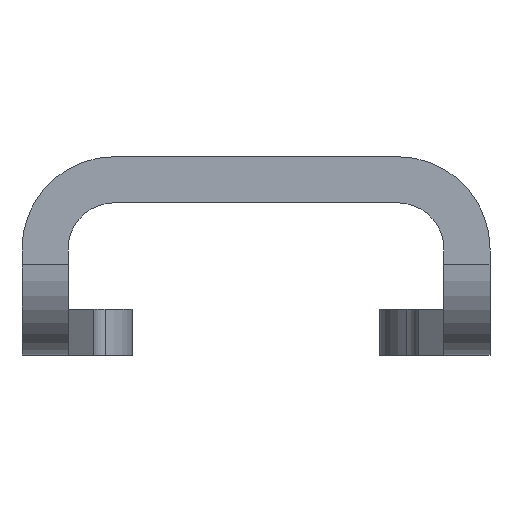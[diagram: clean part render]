
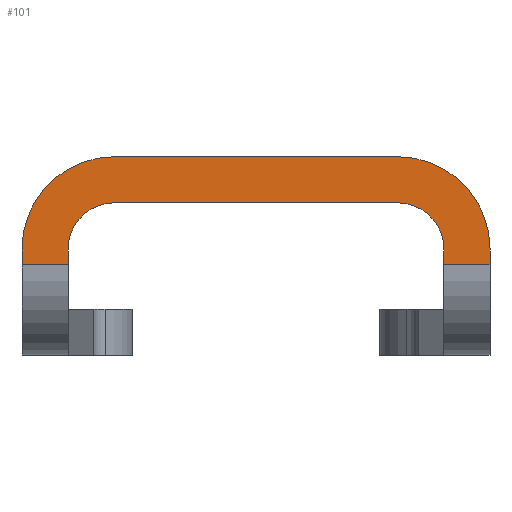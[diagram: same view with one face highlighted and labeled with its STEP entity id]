
A CAD part, left-side view. The second image highlights one B-rep face of the part: STEP entity #101.
In plain terms, the highlighted planar face has unit normal (-1, 0, 0).
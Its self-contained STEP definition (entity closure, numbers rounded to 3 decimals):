
#63=CIRCLE('',#749,2.6);
#64=CIRCLE('',#751,1.3);
#66=CIRCLE('',#754,2.6);
#67=CIRCLE('',#755,1.3);
#101=ADVANCED_FACE('',(#161),#131,.F.);
#131=PLANE('',#756);
#161=FACE_OUTER_BOUND('',#199,.T.);
#199=EDGE_LOOP('',(#310,#311,#312,#313,#314,#315,#316,#317,#318,#319,#320,
#321));
#310=ORIENTED_EDGE('',*,*,#520,.T.);
#311=ORIENTED_EDGE('',*,*,#523,.F.);
#312=ORIENTED_EDGE('',*,*,#533,.T.);
#313=ORIENTED_EDGE('',*,*,#527,.F.);
#314=ORIENTED_EDGE('',*,*,#536,.F.);
#315=ORIENTED_EDGE('',*,*,#537,.T.);
#316=ORIENTED_EDGE('',*,*,#538,.F.);
#317=ORIENTED_EDGE('',*,*,#539,.F.);
#318=ORIENTED_EDGE('',*,*,#540,.T.);
#319=ORIENTED_EDGE('',*,*,#529,.T.);
#320=ORIENTED_EDGE('',*,*,#534,.F.);
#321=ORIENTED_EDGE('',*,*,#516,.T.);
#440=VERTEX_POINT('',#1068);
#441=VERTEX_POINT('',#1070);
#443=VERTEX_POINT('',#1076);
#445=VERTEX_POINT('',#1082);
#446=VERTEX_POINT('',#1086);
#449=VERTEX_POINT('',#1091);
#451=VERTEX_POINT('',#1096);
#452=VERTEX_POINT('',#1098);
#454=VERTEX_POINT('',#1110);
#455=VERTEX_POINT('',#1112);
#456=VERTEX_POINT('',#1114);
#457=VERTEX_POINT('',#1116);
#516=EDGE_CURVE('',#441,#440,#605,.T.);
#520=EDGE_CURVE('',#440,#443,#608,.T.);
#523=EDGE_CURVE('',#445,#443,#611,.T.);
#527=EDGE_CURVE('',#449,#446,#615,.T.);
#529=EDGE_CURVE('',#452,#451,#617,.T.);
#533=EDGE_CURVE('',#445,#446,#63,.T.);
#534=EDGE_CURVE('',#441,#451,#64,.T.);
#536=EDGE_CURVE('',#454,#449,#66,.T.);
#537=EDGE_CURVE('',#454,#455,#620,.T.);
#538=EDGE_CURVE('',#456,#455,#621,.T.);
#539=EDGE_CURVE('',#457,#456,#622,.T.);
#540=EDGE_CURVE('',#457,#452,#67,.T.);
#605=LINE('',#1069,#673);
#608=LINE('',#1077,#676);
#611=LINE('',#1083,#679);
#615=LINE('',#1092,#683);
#617=LINE('',#1097,#685);
#620=LINE('',#1111,#688);
#621=LINE('',#1113,#689);
#622=LINE('',#1115,#690);
#673=VECTOR('',#860,1.);
#676=VECTOR('',#867,1.);
#679=VECTOR('',#872,1.);
#683=VECTOR('',#878,1.);
#685=VECTOR('',#882,1.);
#688=VECTOR('',#901,1.);
#689=VECTOR('',#902,1.);
#690=VECTOR('',#903,1.);
#749=AXIS2_PLACEMENT_3D('',#1104,#889,#890);
#751=AXIS2_PLACEMENT_3D('',#1106,#893,#894);
#754=AXIS2_PLACEMENT_3D('',#1109,#899,#900);
#755=AXIS2_PLACEMENT_3D('',#1117,#904,#905);
#756=AXIS2_PLACEMENT_3D('',#1118,#906,#907);
#860=DIRECTION('',(0.,0.,-1.));
#867=DIRECTION('',(0.,-1.,0.));
#872=DIRECTION('',(0.,0.,-1.));
#878=DIRECTION('',(0.,-1.,0.));
#882=DIRECTION('',(0.,-1.,0.));
#889=DIRECTION('',(-1.,0.,0.));
#890=DIRECTION('',(0.,0.,1.));
#893=DIRECTION('',(-1.,0.,0.));
#894=DIRECTION('',(0.,0.,1.));
#899=DIRECTION('',(1.,0.,0.));
#900=DIRECTION('',(0.,0.,-1.));
#901=DIRECTION('',(0.,0.,-1.));
#902=DIRECTION('',(0.,1.,0.));
#903=DIRECTION('',(0.,0.,-1.));
#904=DIRECTION('',(1.,0.,0.));
#905=DIRECTION('',(0.,0.,-1.));
#906=DIRECTION('',(1.,0.,0.));
#907=DIRECTION('',(0.,0.,-1.));
#1068=CARTESIAN_POINT('',(-2.55,-5.3,1.9));
#1069=CARTESIAN_POINT('',(-2.55,-5.3,2.35));
#1070=CARTESIAN_POINT('',(-2.55,-5.3,2.35));
#1076=CARTESIAN_POINT('',(-2.55,-6.6,1.9));
#1077=CARTESIAN_POINT('',(-2.55,-5.3,1.9));
#1082=CARTESIAN_POINT('',(-2.55,-6.6,2.35));
#1083=CARTESIAN_POINT('',(-2.55,-6.6,2.35));
#1086=CARTESIAN_POINT('',(-2.55,-4.,4.95));
#1091=CARTESIAN_POINT('',(-2.55,4.,4.95));
#1092=CARTESIAN_POINT('',(-2.55,-4.,4.95));
#1096=CARTESIAN_POINT('',(-2.55,-4.,3.65));
#1097=CARTESIAN_POINT('',(-2.55,-4.,3.65));
#1098=CARTESIAN_POINT('',(-2.55,4.,3.65));
#1104=CARTESIAN_POINT('',(-2.55,-4.,2.35));
#1106=CARTESIAN_POINT('',(-2.55,-4.,2.35));
#1109=CARTESIAN_POINT('',(-2.55,4.,2.35));
#1110=CARTESIAN_POINT('',(-2.55,6.6,2.35));
#1111=CARTESIAN_POINT('',(-2.55,6.6,2.35));
#1112=CARTESIAN_POINT('',(-2.55,6.6,1.9));
#1113=CARTESIAN_POINT('',(-2.55,5.3,1.9));
#1114=CARTESIAN_POINT('',(-2.55,5.3,1.9));
#1115=CARTESIAN_POINT('',(-2.55,5.3,2.35));
#1116=CARTESIAN_POINT('',(-2.55,5.3,2.35));
#1117=CARTESIAN_POINT('',(-2.55,4.,2.35));
#1118=CARTESIAN_POINT('',(-2.55,-5.3,2.35));
